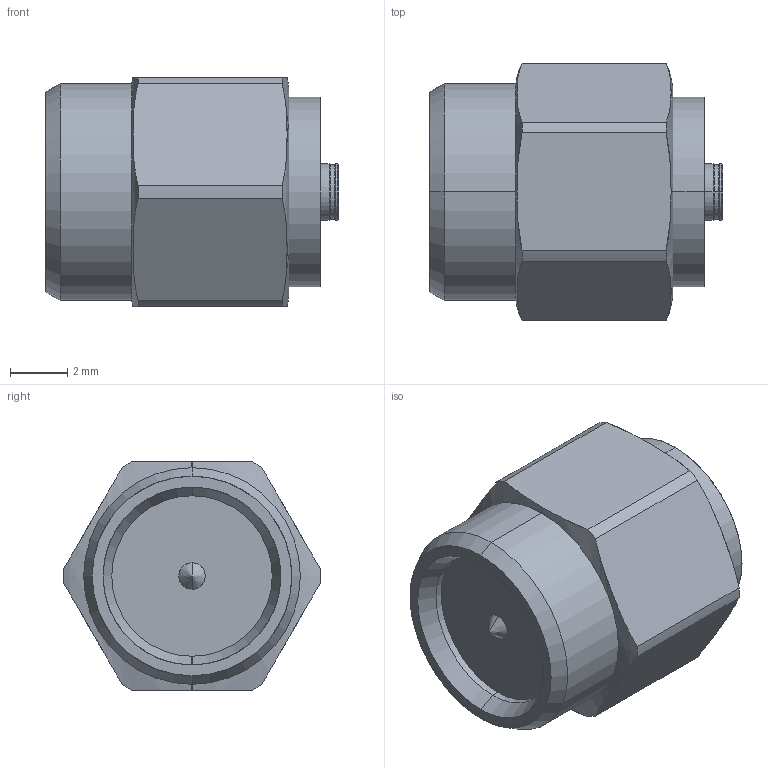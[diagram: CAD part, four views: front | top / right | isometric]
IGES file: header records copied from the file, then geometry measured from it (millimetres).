
Start section: SolidWorks IGES file using analytic representation for surfaces
Global section: file name: C:\3dwork\Toida\アダプタ関連　3Dモデル\90413\90413-001\90413-001 MHF-A SMA ADAPTOR.IGS; native system: SolidWorks 2017; preprocessor: SolidWorks 2017; author: ipxcad-021; date: 200327.174726; units: millimetre
Bounding box: 10.24 x 9 x 8 mm (x, y, z)
Surface area: 361.1 mm2 (no closed solid volume)
Topology: 0 solids, 0 shells, 49 faces, 580 edges, 576 vertices
Faces by surface type: revolution 34, bspline 15
